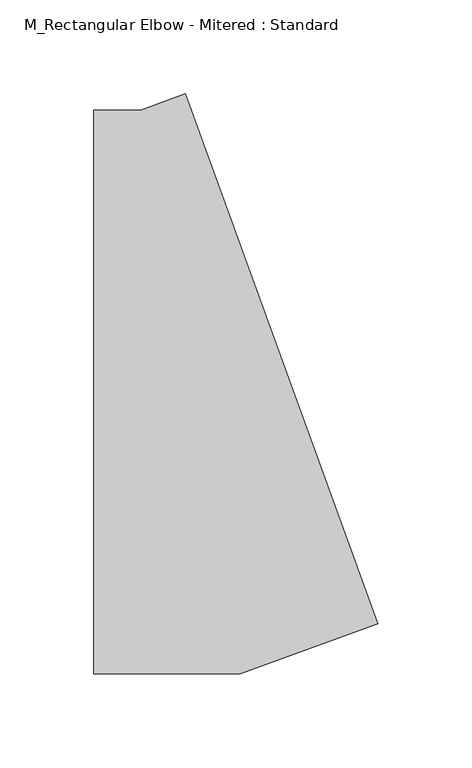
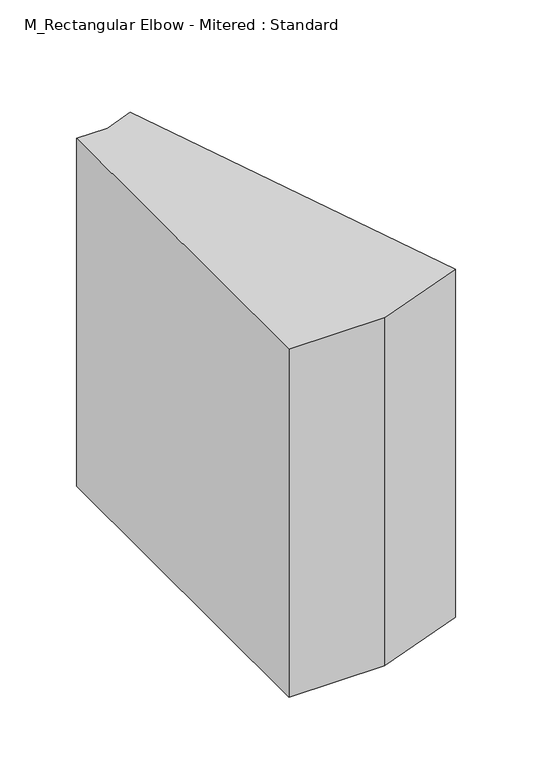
"""IFC4 building model written with IfcOpenShell, lengths in millimetres: duct fitting geometry, M_Rectangular Elbow - Mitered : Standard."""

import ifcopenshell
import ifcopenshell.guid

model = None  # the IFC model being written
_history = None  # IfcOwnerHistory: only IFC2X3 demands one
_inside = {}  # id of a spatial element -> (the spatial element, [elements in it])
_under = {}  # id of a project, library or spatial element -> (it, [spatial elements below it])
_declared = {}  # id of a project -> (the project, [libraries it declares])
_typed = {}  # id of a type object -> (the type object, [elements of that type])
_made_of = {}  # id of a material, layer set ... -> (it, [elements and type objects made of it])


def new_model(schema):
    """Start an empty IFC model of exactly this schema.

    Asked for "IFC4X3", IfcOpenShell would pick the latest addendum, in which some entities
    have other attributes; the version numbers below select the first issue.
    IFC2X3 requires an IfcOwnerHistory on every rooted entity: one is made here for all.
    """
    global model, _history
    if schema == "IFC4X3":
        model = ifcopenshell.file(schema_version=(4, 3, 0, 0))
    else:
        model = ifcopenshell.file(schema=schema)
    _inside.clear()
    _under.clear()
    _declared.clear()
    _typed.clear()
    _made_of.clear()
    _history = None
    if model.schema == "IFC2X3":
        org = make("IfcOrganization", Name="unknown")
        user = make(
            "IfcPersonAndOrganization",
            ThePerson=make("IfcPerson", FamilyName="unknown"),
            TheOrganization=org,
        )
        app = make(
            "IfcApplication",
            ApplicationDeveloper=org,
            Version="unknown",
            ApplicationFullName="unknown",
            ApplicationIdentifier="unknown",
        )
        _history = make(
            "IfcOwnerHistory",
            OwningUser=user,
            OwningApplication=app,
            ChangeAction="ADDED",
            CreationDate=0,
        )
    return model


def make(cls, **values):
    """One entity of the class cls with the attributes given. An attribute that is None is left unset."""
    return model.create_entity(
        cls, **{name: value for name, value in values.items() if value is not None}
    )


def rooted(cls, **values):
    """An entity with a GlobalId (a new one), such as an element, a storey or a relation."""
    return make(cls, GlobalId=ifcopenshell.guid.new(), OwnerHistory=_history, **values)


def si_unit(unit_type, name, prefix=None):
    """IfcSIUnit, for example si_unit("LENGTHUNIT", "METRE", prefix="MILLI")."""
    return make("IfcSIUnit", UnitType=unit_type, Prefix=prefix, Name=name)


def assignment(units):
    """IfcUnitAssignment: the units of a project."""
    return None if units is None else make("IfcUnitAssignment", Units=units)


def point(xyz):
    """IfcCartesianPoint."""
    return None if xyz is None else make("IfcCartesianPoint", Coordinates=xyz)


def direction(xyz):
    """IfcDirection."""
    return None if xyz is None else make("IfcDirection", DirectionRatios=xyz)


def frame(location, z_axis=None, x_axis=None):
    """IfcAxis2Placement3D, a coordinate frame: its origin and axes. An axis left out is left unset."""
    return make(
        "IfcAxis2Placement3D",
        Location=point(location),
        Axis=direction(z_axis),
        RefDirection=direction(x_axis),
    )


def origin():
    """The frame at (0, 0, 0) with its axes left unset."""
    return frame((0.0, 0.0, 0.0))


def place(relative_to, where):
    """IfcLocalPlacement: puts the frame where relative to a parent placement (None: the world)."""
    return make(
        "IfcLocalPlacement", PlacementRelTo=relative_to, RelativePlacement=where
    )


def context(
    kind, dimensions, precision=None, world=None, true_north=None, identifier=None
):
    """IfcGeometricRepresentationContext, for example the 3D "Model" context."""
    return make(
        "IfcGeometricRepresentationContext",
        ContextIdentifier=identifier,
        ContextType=kind,
        CoordinateSpaceDimension=dimensions,
        Precision=precision,
        WorldCoordinateSystem=world,
        TrueNorth=true_north,
    )


def project(units=None, contexts=None):
    """IfcProject with its units and contexts."""
    return rooted(
        "IfcProject",
        Name="project",
        RepresentationContexts=contexts,
        UnitsInContext=assignment(units),
    )


def spatial(cls, under=None, at=None, **own):
    """A site, building, storey or space (cls), placed at a placement, below another one or the project."""
    s = rooted(cls, ObjectPlacement=at, **own)
    if under is not None:
        _under.setdefault(under.id(), (under, []))[1].append(s)
    return s


def polyline(points):
    """IfcPolyline through the points."""
    return make("IfcPolyline", Points=[point(p) for p in points])


def outline(outer, holes=None, kind="AREA"):
    """IfcArbitraryClosedProfileDef: a profile drawn as a closed curve; with holes, ...WithVoids."""
    if holes is None:
        return make("IfcArbitraryClosedProfileDef", ProfileType=kind, OuterCurve=outer)
    return make(
        "IfcArbitraryProfileDefWithVoids",
        ProfileType=kind,
        OuterCurve=outer,
        InnerCurves=holes,
    )


def extrude(swept, where, along, depth):
    """IfcExtrudedAreaSolid: the profile swept, set in the frame where, extruded along a direction by depth."""
    return make(
        "IfcExtrudedAreaSolid",
        SweptArea=swept,
        Position=where,
        ExtrudedDirection=direction(along),
        Depth=depth,
    )


def shape(context_of_items, identifier, shape_type, items):
    """IfcShapeRepresentation: the items that make up one representation, for example the "Body"."""
    return make(
        "IfcShapeRepresentation",
        ContextOfItems=context_of_items,
        RepresentationIdentifier=identifier,
        RepresentationType=shape_type,
        Items=items,
    )


def source(mapping_origin, context_of_items, identifier, shape_type, items):
    """IfcRepresentationMap: a shape defined once, which mapped items show again and again."""
    return make(
        "IfcRepresentationMap",
        MappingOrigin=mapping_origin,
        MappedRepresentation=shape(context_of_items, identifier, shape_type, items),
    )


def transform(
    local_origin,
    x_axis=None,
    y_axis=None,
    z_axis=None,
    scale=None,
    scale2=None,
    scale3=None,
    uniform=True,
):
    """IfcCartesianTransformationOperator3D, or its non-uniform kind. x_axis, y_axis, z_axis: its Axis1, 2, 3."""
    if uniform:
        return make(
            "IfcCartesianTransformationOperator3D",
            Axis1=direction(x_axis),
            Axis2=direction(y_axis),
            LocalOrigin=point(local_origin),
            Scale=scale,
            Axis3=direction(z_axis),
        )
    return make(
        "IfcCartesianTransformationOperator3DnonUniform",
        Axis1=direction(x_axis),
        Axis2=direction(y_axis),
        LocalOrigin=point(local_origin),
        Scale=scale,
        Axis3=direction(z_axis),
        Scale2=scale2,
        Scale3=scale3,
    )


def mapped(mapping_source, mapping_target):
    """IfcMappedItem: shows the shape of a source again, moved by a transform."""
    return make(
        "IfcMappedItem", MappingSource=mapping_source, MappingTarget=mapping_target
    )


def made_of(thing, what):
    """Note that an element or type object is made of a material, layer set ...; save() writes the relation."""
    if what is not None:
        _made_of.setdefault(what.id(), (what, []))[1].append(thing)
    return thing


def element(
    cls,
    number,
    at=None,
    inside=None,
    cuts=None,
    type_object=None,
    material=None,
    context=None,
    identifier="Body",
    shape_type=None,
    held_by="IfcProductDefinitionShape",
    body=None,
    shapes=None,
    **own,
):
    """One element of the class cls, such as IfcWall. Its Tag is "e" and its number.

    at: its placement. inside: the storey or other place that contains it. cuts: it is an
    opening in that element (IfcRelVoidsElement). A single representation is given by context,
    identifier, shape_type and body (its items); several are given by shapes. held_by: the class
    of the entity that holds the representations. save() writes the other relations.
    """
    e = rooted(cls, Tag="e%d" % number, ObjectPlacement=at, **own)
    if body is not None:
        shapes = [shape(context, identifier, shape_type, body)]
    if shapes is not None:
        e.Representation = make(held_by, Representations=shapes)
    if inside is not None:
        _inside.setdefault(inside.id(), (inside, []))[1].append(e)
    if cuts is not None:
        rooted(
            "IfcRelVoidsElement", RelatingBuildingElement=cuts, RelatedOpeningElement=e
        )
    if type_object is not None:
        _typed.setdefault(type_object.id(), (type_object, []))[1].append(e)
    return made_of(e, material)


def aggregate(whole, parts):
    """IfcRelAggregates: a whole, such as a stair, and the parts it consists of."""
    return rooted("IfcRelAggregates", RelatingObject=whole, RelatedObjects=parts)


def save(model, path):
    """Write the relations noted so far, then the file.

    IfcRelAggregates (storeys below a building ...), IfcRelContainedInSpatialStructure (elements
    in a storey), IfcRelDefinesByType, IfcRelAssociatesMaterial and IfcRelDeclares: one each for
    every whole, place, type object, material and project.
    """
    for whole, parts in _under.values():
        aggregate(whole, parts)
    for where, things in _inside.values():
        rooted(
            "IfcRelContainedInSpatialStructure",
            RelatedElements=things,
            RelatingStructure=where,
        )
    for kind, things in _typed.values():
        rooted("IfcRelDefinesByType", RelatedObjects=things, RelatingType=kind)
    for what, things in _made_of.values():
        rooted("IfcRelAssociatesMaterial", RelatedObjects=things, RelatingMaterial=what)
    for by, libraries in _declared.values():
        rooted("IfcRelDeclares", RelatingContext=by, RelatedDefinitions=libraries)
    model.write(path)


def m_rectangular_elbow_mitered_standard_01168410(model_context):
    return source(origin(), model_context, "Body", "SweptSolid", [
        extrude(outline(polyline([(-51.4490471, -150.0), (-51.4490471, 150.0), (-26.4490471, 150.0), (-2.9567316, 158.5505036), (99.6493114, -123.3572827), (26.4490471, -150.0), (-51.4490471, -150.0)])), frame((0.0, 0.0, -150.0), z_axis=(0.0, 0.0, 1.0), x_axis=(1.0, 0.0, 0.0)), (0.0, 0.0, 1.0), 300.0),
        extrude(outline(polyline([(-51.4490471, -150.0), (-51.4490471, 150.0), (-26.4490471, 150.0), (-2.9567316, 158.5505036), (99.6493114, -123.3572827), (26.4490471, -150.0), (-51.4490471, -150.0)])), frame((0.0, 0.0, -150.0), z_axis=(0.0, 0.0, 1.0), x_axis=(1.0, 0.0, 0.0)), (0.0, 0.0, 1.0), 300.0),
        extrude(outline(polyline([(-51.4490471, -150.0), (-51.4490471, 150.0), (-26.4490471, 150.0), (-2.9567316, 158.5505036), (99.6493114, -123.3572827), (26.4490471, -150.0), (-51.4490471, -150.0)])), frame((0.0, 0.0, -150.0), z_axis=(0.0, 0.0, 1.0), x_axis=(1.0, 0.0, 0.0)), (0.0, 0.0, 1.0), 300.0),
    ])


if __name__ == "__main__":
    model = new_model("IFC4")
    model_context = context("Model", 3, world=origin())
    ifc_project = project(units=[si_unit("LENGTHUNIT", "METRE", prefix="MILLI")], contexts=[model_context])
    site = spatial("IfcSite", under=ifc_project)
    building = spatial("IfcBuilding", under=site)
    placement = place(None, origin())
    m_rectangular_elbow_mitered_standard_shape = m_rectangular_elbow_mitered_standard_01168410(model_context)
    element("IfcDuctFitting", 1, ObjectType="M_Rectangular Elbow - Mitered : Standard", at=placement, inside=building, context=model_context, shape_type="MappedRepresentation", body=[
        mapped(m_rectangular_elbow_mitered_standard_shape, transform((0.0, 0.0, 0.0), x_axis=(1.0, 0.0, 0.0), y_axis=(0.0, 1.0, 0.0), z_axis=(0.0, 0.0, 1.0))),
    ])
    save(model, "model.ifc")
